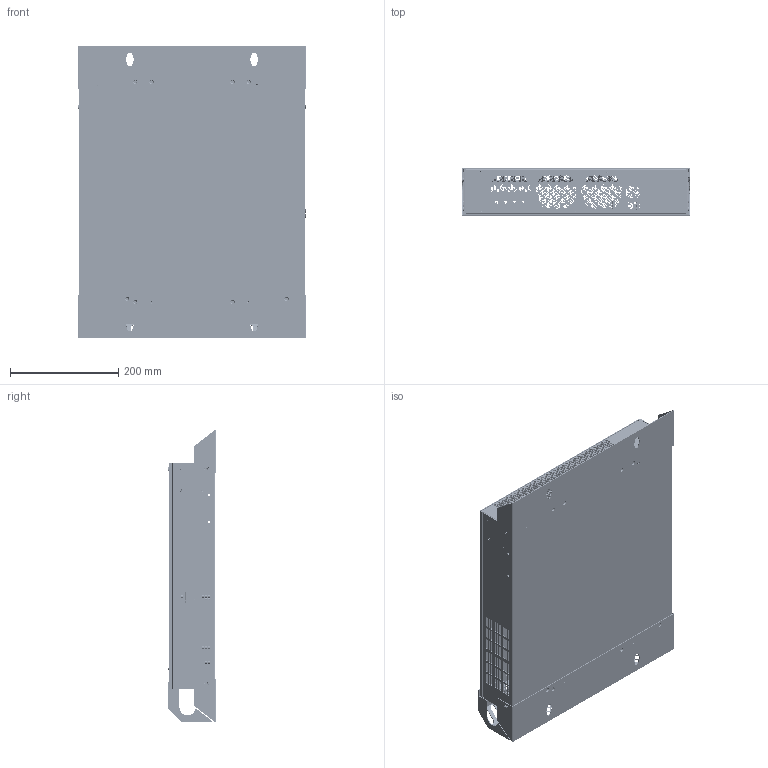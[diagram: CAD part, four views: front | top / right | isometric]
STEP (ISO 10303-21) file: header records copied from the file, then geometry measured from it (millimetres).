
FILE_DESCRIPTION (( 'STEP AP203' ), '1' );
FILE_NAME ('2D-30A族境衄そ.STEP', '2024-01-30T08:38:18', ( '' ), ( '' ), 'SwSTEP 2.0', 'SolidWorks 2020', '' );
FILE_SCHEMA (( 'CONFIG_CONTROL_DESIGN' ));
Length unit declared in the file: millimetre
Products named in the file (33): 珘儒DMT48270C043-15WTZ1; 2D-30A族境衄そ; 遺殤; S-M5-2-ZC; BSO-3.5M4-8; 綴傷誘啣; S-M6-2-ZC; BSO-3.5M4-21; BSO-3.5M3-25; 錨璃3^綴傷誘啣; BSO-3.5M3-9; S-M4-2-ZC; GBT819.1_M4X8; 族境ヶ醱啣; BSO-3.5M3-8; 錨璃5^盓傅璃; 盓傅璃; BSO-3.5M3-7.5; 錨璃4^瑞儂嘐隅啣; 族境盓傅; 腑啣; 2D-30A儂眊軞蚾; ﾁ羮1^ｿﾜ; BSO-3.5M4-6; APF-30ATD75-01-C-5λA; 裔啣; BSO-3.5M3-40; 零件3^盖板; 錨璃4^族境盓傅; BSO-3.5M4-12.5; 瑞儂嘐隅啣; 錨璃2^族境ヶ醱啣
Assembly tree (99 placements, depth 4):
  2D-30A族境衄そ
    2D-30A儂眊軞蚾
      遺殤
        ﾁ羮1^ｿﾜ
        BSO-3.5M3-25  x4
        BSO-3.5M4-21  x3
        S-M4-2-ZC  x13
        BSO-3.5M4-6  x6
        BSO-3.5M4-8  x4
        BSO-3.5M4-12.5  x2
        S-M5-2-ZC  x2
        S-M6-2-ZC
      族境ヶ醱啣
        錨璃2^族境ヶ醱啣
        S-M4-2-ZC  x8
      裔啣
        零件3^盖板
        BSO-3.5M3-9  x4
        BSO-3.5M3-8  x2
      族境盓傅
        錨璃4^族境盓傅
      族境盓傅
        錨璃4^族境盓傅
      綴傷誘啣
        錨璃3^綴傷誘啣
      GBT819.1_M4X8  x20
      瑞儂嘐隅啣
        錨璃4^瑞儂嘐隅啣
        S-M4-2-ZC  x4
        BSO-3.5M3-40  x2
      盓傅璃
        錨璃5^盓傅璃
        BSO-3.5M3-7.5  x2
        S-M4-2-ZC  x2
    珘儒DMT48270C043-15WTZ1
    腑啣
    APF-30ATD75-01-C-5λA
Bounding box: 423.02 x 89.52 x 541.08 mm (x, y, z)
Volume: 1066882.2 mm3; surface area: 1358976.9 mm2
Topology: 92 solids, 92 shells, 10757 faces, 31110 edges, 20648 vertices
Faces by surface type: plane 9488, cylinder 867, cone 270, bspline 128, torus 4
Entity records: 321839 total; most frequent: CARTESIAN_POINT 56538, ORIENTED_EDGE 55804, DIRECTION 48154, EDGE_CURVE 27902, LINE 26646, VECTOR 26646, VERTEX_POINT 18540, EDGE_LOOP 12662
